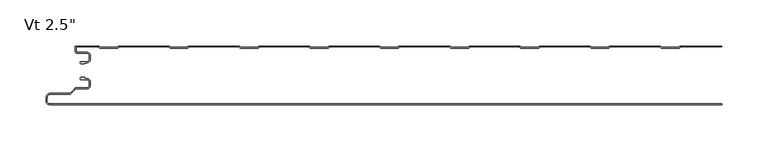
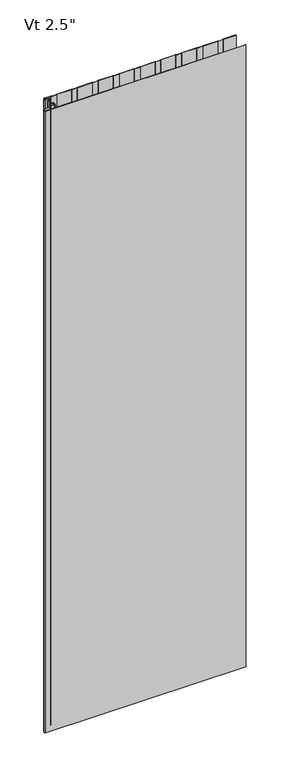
"""IFC4 building model written with IfcOpenShell, lengths in millimetres: plate geometry."""

from ifc_helpers import new_model, si_unit, point, frame, frame_2d, origin, origin_with_axes, place, context, project, spatial, polyline, circle_curve, trimmed, segment, composite_curve, outline, extrude, source, transform, mapped, element, save
from ifc_brep_helpers import plane_surface, cylinder_surface, revolved_surface, advanced_brep


def plate_4ac01d0b(model_context):
    return source(origin(), model_context, "Body", "SolidModel", [
        advanced_brep(
        [(-346.968691, -17.0015202, 2400.0), (-347.9686883, -18.0015234, 2400.0), (-346.968691, -19.0015147, 2400.0), (-342.9684874, -19.0015147, 2400.0), (-342.9684874, -18.0015202, 2400.0), (-340.2762776, -18.0015202, 2400.0), (-336.9762819, -14.7015245, 2400.0), (-336.9762819, -10.3015333, 2400.0), (-340.2762774, -7.0015378, 2400.0), (-350.6962563, -7.0015378, 2400.0), (-352.4662505, -5.2315436, 2400.0), (-352.4662505, -0.9999959, 2400.0), (-327.9659738, -0.9999959, 2400.0), (-326.5803312, -2.200235, 2400.0), (-307.2051649, -2.200235, 2400.0), (-305.819532, -1.0000043, 2400.0), (-251.7661166, -1.0000043, 2400.0), (-250.3804836, -2.200235, 2400.0), (-231.0053173, -2.200235, 2400.0), (-229.6196844, -1.0000043, 2400.0), (-175.566269, -1.0000043, 2400.0), (-174.180636, -2.200235, 2400.0), (-154.8054697, -2.200235, 2400.0), (-153.4198368, -1.0000043, 2400.0), (-99.3664214, -1.0000043, 2400.0), (-97.9807884, -2.200235, 2400.0), (-78.6056221, -2.200235, 2400.0), (-77.2199892, -1.0000043, 2400.0), (-23.1665738, -1.0000043, 2400.0), (-21.7809408, -2.200235, 2400.0), (-2.4057745, -2.200235, 2400.0), (-1.0201416, -1.0000043, 2400.0), (53.0332738, -1.0000043, 2400.0), (54.4189068, -2.200235, 2400.0), (73.7940731, -2.200235, 2400.0), (75.179706, -1.0000043, 2400.0), (129.2331214, -1.0000043, 2400.0), (130.6187544, -2.200235, 2400.0), (149.9939207, -2.200235, 2400.0), (151.3795536, -1.0000043, 2400.0), (205.432969, -1.0000043, 2400.0), (206.818602, -2.200235, 2400.0), (226.1937683, -2.200235, 2400.0), (227.5794012, -1.0000043, 2400.0), (281.6328166, -1.0000043, 2400.0), (283.0184496, -2.200235, 2400.0), (302.3936159, -2.200235, 2400.0), (303.7792488, -1.0000043, 2400.0), (348.9999998, -1.0000043, 2400.0), (348.9999998, -4.3e-06, 2400.0), (303.9284, -4.3e-06, 2400.0), (303.0117831, -0.3417928, 2400.0), (302.0207355, -1.200235, 2400.0), (283.39133, -1.200235, 2400.0), (282.4002824, -0.3417928, 2400.0), (281.4836655, -4.3e-06, 2400.0), (227.7285524, -4.3e-06, 2400.0), (226.8119355, -0.3417928, 2400.0), (225.8208879, -1.200235, 2400.0), (207.1914824, -1.200235, 2400.0), (206.2004348, -0.3417928, 2400.0), (205.2838179, -4.3e-06, 2400.0), (151.5287048, -4.3e-06, 2400.0), (150.6120879, -0.3417928, 2400.0), (149.6210403, -1.200235, 2400.0), (130.9916348, -1.200235, 2400.0), (130.0005872, -0.3417928, 2400.0), (129.0839703, -4.3e-06, 2400.0), (75.3288572, -4.3e-06, 2400.0), (74.4122403, -0.3417928, 2400.0), (73.4211927, -1.200235, 2400.0), (54.7917872, -1.200235, 2400.0), (53.8007396, -0.3417928, 2400.0), (52.8841227, -4.3e-06, 2400.0), (-0.8709904, -4.3e-06, 2400.0), (-1.7876073, -0.3417928, 2400.0), (-2.7786549, -1.200235, 2400.0), (-21.4080604, -1.200235, 2400.0), (-22.399108, -0.3417928, 2400.0), (-23.3157249, -4.3e-06, 2400.0), (-77.070838, -4.3e-06, 2400.0), (-77.9874549, -0.3417928, 2400.0), (-78.9785025, -1.200235, 2400.0), (-97.607908, -1.200235, 2400.0), (-98.5989556, -0.3417928, 2400.0), (-99.5155725, -4.3e-06, 2400.0), (-153.2706856, -4.3e-06, 2400.0), (-154.1873025, -0.3417928, 2400.0), (-155.1783501, -1.200235, 2400.0), (-173.8077556, -1.200235, 2400.0), (-174.7988032, -0.3417928, 2400.0), (-175.7154201, -4.3e-06, 2400.0), (-229.4705332, -4.3e-06, 2400.0), (-230.3871501, -0.3417928, 2400.0), (-231.3781977, -1.200235, 2400.0), (-250.0076032, -1.200235, 2400.0), (-250.9986508, -0.3417928, 2400.0), (-251.9152677, -4.3e-06, 2400.0), (-305.6703808, -4.3e-06, 2400.0), (-306.5869977, -0.3417928, 2400.0), (-307.5780453, -1.200235, 2400.0), (-326.2074508, -1.200235, 2400.0), (-327.1984984, -0.3417928, 2400.0), (-328.1152067, -4.3e-06, 2400.0), (-352.0662543, 4.1e-06, 2400.0), (-353.4662505, -1.3999921, 2400.0), (-353.4662505, -5.2315436, 2400.0), (-350.6962563, -8.0015378, 2400.0), (-340.2762774, -8.0015378, 2400.0), (-337.9762819, -10.3015333, 2400.0), (-337.9762819, -14.7015245, 2400.0), (-340.2762776, -17.0015202, 2400.0), (-346.968691, -17.0015202, 0.0), (-340.2762776, -17.0015202, 0.0), (-337.9762819, -14.7015245, 0.0), (-337.9762819, -10.3015333, 0.0), (-340.2762774, -8.0015378, 0.0), (-350.6962563, -8.0015378, 0.0), (-353.4662505, -5.2315436, 0.0), (-353.4662505, -1.3999921, 0.0), (-352.0662543, 4.1e-06, 0.0), (-328.1151153, 4.1e-06, 0.0), (-327.1984984, -0.3417928, 0.0), (-326.2074508, -1.200235, 0.0), (-307.5780453, -1.200235, 0.0), (-306.5869977, -0.3417928, 0.0), (-305.6703808, -4.3e-06, 0.0), (-251.9152677, -4.3e-06, 0.0), (-250.9986508, -0.3417928, 0.0), (-250.0076032, -1.200235, 0.0), (-231.3781977, -1.200235, 0.0), (-230.3871501, -0.3417928, 0.0), (-229.4705332, -4.3e-06, 0.0), (-175.7154201, -4.3e-06, 0.0), (-174.7988032, -0.3417928, 0.0), (-173.8077556, -1.200235, 0.0), (-155.1783501, -1.200235, 0.0), (-154.1873025, -0.3417928, 0.0), (-153.2706856, -4.3e-06, 0.0), (-99.5155725, -4.3e-06, 0.0), (-98.5989556, -0.3417928, 0.0), (-97.607908, -1.200235, 0.0), (-78.9785025, -1.200235, 0.0), (-77.9874549, -0.3417928, 0.0), (-77.070838, -4.3e-06, 0.0), (-23.3157249, -4.3e-06, 0.0), (-22.399108, -0.3417928, 0.0), (-21.4080604, -1.200235, 0.0), (-2.7786549, -1.200235, 0.0), (-1.7876073, -0.3417928, 0.0), (-0.8709904, -4.3e-06, 0.0), (52.8841227, -4.3e-06, 0.0), (53.8007396, -0.3417928, 0.0), (54.7917872, -1.200235, 0.0), (73.4211927, -1.200235, 0.0), (74.4122403, -0.3417928, 0.0), (75.3288572, -4.3e-06, 0.0), (129.0839703, -4.3e-06, 0.0), (130.0005872, -0.3417928, 0.0), (130.9916348, -1.200235, 0.0), (149.6210403, -1.200235, 0.0), (150.6120879, -0.3417928, 0.0), (151.5287048, -4.3e-06, 0.0), (205.2838179, -4.3e-06, 0.0), (206.2004348, -0.3417928, 0.0), (207.1914824, -1.200235, 0.0), (225.8208879, -1.200235, 0.0), (226.8119355, -0.3417928, 0.0), (227.7285524, -4.3e-06, 0.0), (281.4836655, -4.3e-06, 0.0), (282.4002824, -0.3417928, 0.0), (283.39133, -1.200235, 0.0), (302.0207355, -1.200235, 0.0), (303.0117831, -0.3417928, 0.0), (303.9284, -4.3e-06, 0.0), (348.9999998, -4.3e-06, 0.0), (348.9999998, -1.0000043, 0.0), (303.7792488, -1.0000043, 0.0), (302.3936159, -2.200235, 0.0), (283.0184496, -2.200235, 0.0), (281.6328166, -1.0000043, 0.0), (227.5794012, -1.0000043, 0.0), (226.1937683, -2.200235, 0.0), (206.818602, -2.200235, 0.0), (205.432969, -1.0000043, 0.0), (151.3795536, -1.0000043, 0.0), (149.9939207, -2.200235, 0.0), (130.6187544, -2.200235, 0.0), (129.2331214, -1.0000043, 0.0), (75.179706, -1.0000043, 0.0), (73.7940731, -2.200235, 0.0), (54.4189068, -2.200235, 0.0), (53.0332738, -1.0000043, 0.0), (-1.0201416, -1.0000043, 0.0), (-2.4057745, -2.200235, 0.0), (-21.7809408, -2.200235, 0.0), (-23.1665738, -1.0000043, 0.0), (-77.2199892, -1.0000043, 0.0), (-78.6056221, -2.200235, 0.0), (-97.9807884, -2.200235, 0.0), (-99.3664214, -1.0000043, 0.0), (-153.4198368, -1.0000043, 0.0), (-154.8054697, -2.200235, 0.0), (-174.180636, -2.200235, 0.0), (-175.566269, -1.0000043, 0.0), (-229.6196844, -1.0000043, 0.0), (-231.0053173, -2.200235, 0.0), (-250.3804836, -2.200235, 0.0), (-251.7661166, -1.0000043, 0.0), (-305.819532, -1.0000043, 0.0), (-307.2051649, -2.200235, 0.0), (-326.5803312, -2.200235, 0.0), (-327.9659738, -0.9999959, 0.0), (-352.4662505, -0.9999959, 0.0), (-352.4662505, -5.2315436, 0.0), (-350.6962563, -7.0015378, 0.0), (-340.2762774, -7.0015378, 0.0), (-336.9762819, -10.3015333, 0.0), (-336.9762819, -14.7015245, 0.0), (-340.2762776, -18.0015202, 0.0), (-342.9684874, -18.0015202, 0.0), (-342.9684874, -19.0015147, 0.0), (-346.968691, -19.0015147, 0.0), (-347.9686882, -18.0015235, 0.0)],
        [
            (0, 1, circle_curve(frame((-346.968691, -18.0015175, 2400.0), z_axis=(0.0, 0.0, 1.0), x_axis=(1.0, 0.0, 0.0)), 0.9999973)),
            (1, 2, circle_curve(frame((-346.968691, -18.0015175, 2400.0), z_axis=(0.0, 0.0, 1.0), x_axis=(1.0, 0.0, 0.0)), 0.9999972)),
            (2, 3),
            (3, 4),
            (4, 5),
            (5, 6, circle_curve(frame((-340.2762776, -14.7015245, 2400.0), z_axis=(0.0, 0.0, 1.0), x_axis=(1.0, 0.0, 0.0)), 3.2999957)),
            (6, 7),
            (7, 8, circle_curve(frame((-340.2762774, -10.3015333, 2400.0), z_axis=(0.0, 0.0, 1.0), x_axis=(1.0, 0.0, 0.0)), 3.2999955)),
            (8, 9),
            (9, 10, circle_curve(frame((-350.6962563, -5.2315436, 2400.0), z_axis=(0.0, 0.0, -1.0), x_axis=(1.0, 0.0, 0.0)), 1.7699942)),
            (10, 11),
            (11, 12),
            (12, 13),
            (13, 14),
            (14, 15),
            (15, 16),
            (16, 17),
            (17, 18),
            (18, 19),
            (19, 20),
            (20, 21),
            (21, 22),
            (22, 23),
            (23, 24),
            (24, 25),
            (25, 26),
            (26, 27),
            (27, 28),
            (28, 29),
            (29, 30),
            (30, 31),
            (31, 32),
            (32, 33),
            (33, 34),
            (34, 35),
            (35, 36),
            (36, 37),
            (37, 38),
            (38, 39),
            (39, 40),
            (40, 41),
            (41, 42),
            (42, 43),
            (43, 44),
            (44, 45),
            (45, 46),
            (46, 47),
            (47, 48),
            (48, 49),
            (49, 50),
            (50, 51, circle_curve(frame((303.9284, -1.4000015, 2400.0), z_axis=(0.0, 0.0, 1.0), x_axis=(1.0, 0.0, 0.0)), 1.3999972)),
            (51, 52),
            (52, 53),
            (53, 54),
            (54, 55, circle_curve(frame((281.4836655, -1.4000015, 2400.0), z_axis=(0.0, 0.0, 1.0), x_axis=(1.0, 0.0, 0.0)), 1.3999972)),
            (55, 56),
            (56, 57, circle_curve(frame((227.7285524, -1.4000015, 2400.0), z_axis=(0.0, 0.0, 1.0), x_axis=(1.0, 0.0, 0.0)), 1.3999972)),
            (57, 58),
            (58, 59),
            (59, 60),
            (60, 61, circle_curve(frame((205.2838179, -1.4000015, 2400.0), z_axis=(0.0, 0.0, 1.0), x_axis=(1.0, 0.0, 0.0)), 1.3999972)),
            (61, 62),
            (62, 63, circle_curve(frame((151.5287048, -1.4000015, 2400.0), z_axis=(0.0, 0.0, 1.0), x_axis=(1.0, 0.0, 0.0)), 1.3999972)),
            (63, 64),
            (64, 65),
            (65, 66),
            (66, 67, circle_curve(frame((129.0839703, -1.4000015, 2400.0), z_axis=(0.0, 0.0, 1.0), x_axis=(1.0, 0.0, 0.0)), 1.3999972)),
            (67, 68),
            (68, 69, circle_curve(frame((75.3288572, -1.4000015, 2400.0), z_axis=(0.0, 0.0, 1.0), x_axis=(1.0, 0.0, 0.0)), 1.3999972)),
            (69, 70),
            (70, 71),
            (71, 72),
            (72, 73, circle_curve(frame((52.8841227, -1.4000015, 2400.0), z_axis=(0.0, 0.0, 1.0), x_axis=(1.0, 0.0, 0.0)), 1.3999972)),
            (73, 74),
            (74, 75, circle_curve(frame((-0.8709904, -1.4000015, 2400.0), z_axis=(0.0, 0.0, 1.0), x_axis=(1.0, 0.0, 0.0)), 1.3999972)),
            (75, 76),
            (76, 77),
            (77, 78),
            (78, 79, circle_curve(frame((-23.3157249, -1.4000015, 2400.0), z_axis=(0.0, 0.0, 1.0), x_axis=(1.0, 0.0, 0.0)), 1.3999972)),
            (79, 80),
            (80, 81, circle_curve(frame((-77.070838, -1.4000015, 2400.0), z_axis=(0.0, 0.0, 1.0), x_axis=(1.0, 0.0, 0.0)), 1.3999972)),
            (81, 82),
            (82, 83),
            (83, 84),
            (84, 85, circle_curve(frame((-99.5155725, -1.4000015, 2400.0), z_axis=(0.0, 0.0, 1.0), x_axis=(1.0, 0.0, 0.0)), 1.3999972)),
            (85, 86),
            (86, 87, circle_curve(frame((-153.2706856, -1.4000015, 2400.0), z_axis=(0.0, 0.0, 1.0), x_axis=(1.0, 0.0, 0.0)), 1.3999972)),
            (87, 88),
            (88, 89),
            (89, 90),
            (90, 91, circle_curve(frame((-175.7154201, -1.4000015, 2400.0), z_axis=(0.0, 0.0, 1.0), x_axis=(1.0, 0.0, 0.0)), 1.3999972)),
            (91, 92),
            (92, 93, circle_curve(frame((-229.4705332, -1.4000015, 2400.0), z_axis=(0.0, 0.0, 1.0), x_axis=(1.0, 0.0, 0.0)), 1.3999972)),
            (93, 94),
            (94, 95),
            (95, 96),
            (96, 97, circle_curve(frame((-251.9152677, -1.4000015, 2400.0), z_axis=(0.0, 0.0, 1.0), x_axis=(1.0, 0.0, 0.0)), 1.3999972)),
            (97, 98),
            (98, 99, circle_curve(frame((-305.6703808, -1.4000015, 2400.0), z_axis=(0.0, 0.0, 1.0), x_axis=(1.0, 0.0, 0.0)), 1.3999972)),
            (99, 100),
            (100, 101),
            (101, 102),
            (102, 103, circle_curve(frame((-328.1151153, -1.4000015, 2400.0), z_axis=(0.0, 0.0, 1.0), x_axis=(1.0, 0.0, 0.0)), 1.3999972)),
            (103, 104),
            (104, 105, circle_curve(frame((-352.0662543, -1.3999921, 2400.0), z_axis=(0.0, 0.0, 1.0), x_axis=(1.0, 0.0, 0.0)), 1.3999962)),
            (105, 106),
            (106, 107, circle_curve(frame((-350.6962563, -5.2315436, 2400.0), z_axis=(0.0, 0.0, 1.0), x_axis=(1.0, 0.0, 0.0)), 2.7699942)),
            (107, 108),
            (108, 109, circle_curve(frame((-340.2762774, -10.3015333, 2400.0), z_axis=(0.0, 0.0, -1.0), x_axis=(1.0, 0.0, 0.0)), 2.2999955)),
            (109, 110),
            (110, 111, circle_curve(frame((-340.2762776, -14.7015245, 2400.0), z_axis=(0.0, 0.0, -1.0), x_axis=(1.0, 0.0, 0.0)), 2.2999957)),
            (111, 0),
            (112, 113),
            (113, 114, circle_curve(frame((-340.2762776, -14.7015245, 0.0), z_axis=(0.0, 0.0, 1.0), x_axis=(1.0, 0.0, 0.0)), 2.2999957)),
            (114, 115),
            (115, 116, circle_curve(frame((-340.2762774, -10.3015333, 0.0), z_axis=(0.0, 0.0, 1.0), x_axis=(1.0, 0.0, 0.0)), 2.2999955)),
            (116, 117),
            (117, 118, circle_curve(frame((-350.6962563, -5.2315436, 0.0), z_axis=(0.0, 0.0, -1.0), x_axis=(1.0, 0.0, 0.0)), 2.7699942)),
            (118, 119),
            (119, 120, circle_curve(frame((-352.0662543, -1.3999921, 0.0), z_axis=(0.0, 0.0, -1.0), x_axis=(1.0, 0.0, 0.0)), 1.3999962)),
            (120, 121),
            (121, 122, circle_curve(frame((-328.1151153, -1.4000015, 0.0), z_axis=(0.0, 0.0, -1.0), x_axis=(1.0, 0.0, 0.0)), 1.3999972)),
            (122, 123),
            (123, 124),
            (124, 125),
            (125, 126, circle_curve(frame((-305.6703808, -1.4000015, 0.0), z_axis=(0.0, 0.0, -1.0), x_axis=(1.0, 0.0, 0.0)), 1.3999972)),
            (126, 127),
            (127, 128, circle_curve(frame((-251.9152677, -1.4000015, 0.0), z_axis=(0.0, 0.0, -1.0), x_axis=(1.0, 0.0, 0.0)), 1.3999972)),
            (128, 129),
            (129, 130),
            (130, 131),
            (131, 132, circle_curve(frame((-229.4705332, -1.4000015, 0.0), z_axis=(0.0, 0.0, -1.0), x_axis=(1.0, 0.0, 0.0)), 1.3999972)),
            (132, 133),
            (133, 134, circle_curve(frame((-175.7154201, -1.4000015, 0.0), z_axis=(0.0, 0.0, -1.0), x_axis=(1.0, 0.0, 0.0)), 1.3999972)),
            (134, 135),
            (135, 136),
            (136, 137),
            (137, 138, circle_curve(frame((-153.2706856, -1.4000015, 0.0), z_axis=(0.0, 0.0, -1.0), x_axis=(1.0, 0.0, 0.0)), 1.3999972)),
            (138, 139),
            (139, 140, circle_curve(frame((-99.5155725, -1.4000015, 0.0), z_axis=(0.0, 0.0, -1.0), x_axis=(1.0, 0.0, 0.0)), 1.3999972)),
            (140, 141),
            (141, 142),
            (142, 143),
            (143, 144, circle_curve(frame((-77.070838, -1.4000015, 0.0), z_axis=(0.0, 0.0, -1.0), x_axis=(1.0, 0.0, 0.0)), 1.3999972)),
            (144, 145),
            (145, 146, circle_curve(frame((-23.3157249, -1.4000015, 0.0), z_axis=(0.0, 0.0, -1.0), x_axis=(1.0, 0.0, 0.0)), 1.3999972)),
            (146, 147),
            (147, 148),
            (148, 149),
            (149, 150, circle_curve(frame((-0.8709904, -1.4000015, 0.0), z_axis=(0.0, 0.0, -1.0), x_axis=(1.0, 0.0, 0.0)), 1.3999972)),
            (150, 151),
            (151, 152, circle_curve(frame((52.8841227, -1.4000015, 0.0), z_axis=(0.0, 0.0, -1.0), x_axis=(1.0, 0.0, 0.0)), 1.3999972)),
            (152, 153),
            (153, 154),
            (154, 155),
            (155, 156, circle_curve(frame((75.3288572, -1.4000015, 0.0), z_axis=(0.0, 0.0, -1.0), x_axis=(1.0, 0.0, 0.0)), 1.3999972)),
            (156, 157),
            (157, 158, circle_curve(frame((129.0839703, -1.4000015, 0.0), z_axis=(0.0, 0.0, -1.0), x_axis=(1.0, 0.0, 0.0)), 1.3999972)),
            (158, 159),
            (159, 160),
            (160, 161),
            (161, 162, circle_curve(frame((151.5287048, -1.4000015, 0.0), z_axis=(0.0, 0.0, -1.0), x_axis=(1.0, 0.0, 0.0)), 1.3999972)),
            (162, 163),
            (163, 164, circle_curve(frame((205.2838179, -1.4000015, 0.0), z_axis=(0.0, 0.0, -1.0), x_axis=(1.0, 0.0, 0.0)), 1.3999972)),
            (164, 165),
            (165, 166),
            (166, 167),
            (167, 168, circle_curve(frame((227.7285524, -1.4000015, 0.0), z_axis=(0.0, 0.0, -1.0), x_axis=(1.0, 0.0, 0.0)), 1.3999972)),
            (168, 169),
            (169, 170, circle_curve(frame((281.4836655, -1.4000015, 0.0), z_axis=(0.0, 0.0, -1.0), x_axis=(1.0, 0.0, 0.0)), 1.3999972)),
            (170, 171),
            (171, 172),
            (172, 173),
            (173, 174, circle_curve(frame((303.9284, -1.4000015, 0.0), z_axis=(0.0, 0.0, -1.0), x_axis=(1.0, 0.0, 0.0)), 1.3999972)),
            (174, 175),
            (175, 176),
            (176, 177),
            (177, 178),
            (178, 179),
            (179, 180),
            (180, 181),
            (181, 182),
            (182, 183),
            (183, 184),
            (184, 185),
            (185, 186),
            (186, 187),
            (187, 188),
            (188, 189),
            (189, 190),
            (190, 191),
            (191, 192),
            (192, 193),
            (193, 194),
            (194, 195),
            (195, 196),
            (196, 197),
            (197, 198),
            (198, 199),
            (199, 200),
            (200, 201),
            (201, 202),
            (202, 203),
            (203, 204),
            (204, 205),
            (205, 206),
            (206, 207),
            (207, 208),
            (208, 209),
            (209, 210),
            (210, 211),
            (211, 212),
            (212, 213),
            (213, 214),
            (214, 215, circle_curve(frame((-350.6962563, -5.2315436, 0.0), z_axis=(0.0, 0.0, 1.0), x_axis=(1.0, 0.0, 0.0)), 1.7699942)),
            (215, 216),
            (216, 217, circle_curve(frame((-340.2762774, -10.3015333, 0.0), z_axis=(0.0, 0.0, -1.0), x_axis=(1.0, 0.0, 0.0)), 3.2999955)),
            (217, 218),
            (218, 219, circle_curve(frame((-340.2762776, -14.7015245, 0.0), z_axis=(0.0, 0.0, -1.0), x_axis=(1.0, 0.0, 0.0)), 3.2999957)),
            (219, 220),
            (220, 221),
            (221, 222),
            (222, 223, circle_curve(frame((-346.968691, -18.0015175, 0.0), z_axis=(0.0, 0.0, -1.0), x_axis=(1.0, 0.0, 0.0)), 0.9999972)),
            (223, 112, circle_curve(frame((-346.968691, -18.0015175, 0.0), z_axis=(0.0, 0.0, -1.0), x_axis=(1.0, 0.0, 0.0)), 0.9999973)),
            (48, 176),
            (175, 49),
            (111, 113),
            (112, 0),
            (110, 114),
            (109, 115),
            (108, 116),
            (107, 117),
            (106, 118),
            (105, 119),
            (104, 120),
            (103, 121),
            (102, 122),
            (101, 123),
            (100, 124),
            (99, 125),
            (98, 126),
            (97, 127),
            (96, 128),
            (95, 129),
            (94, 130),
            (93, 131),
            (92, 132),
            (91, 133),
            (90, 134),
            (89, 135),
            (88, 136),
            (87, 137),
            (86, 138),
            (85, 139),
            (84, 140),
            (83, 141),
            (82, 142),
            (81, 143),
            (80, 144),
            (79, 145),
            (78, 146),
            (77, 147),
            (76, 148),
            (75, 149),
            (74, 150),
            (73, 151),
            (72, 152),
            (71, 153),
            (70, 154),
            (69, 155),
            (68, 156),
            (67, 157),
            (66, 158),
            (65, 159),
            (64, 160),
            (63, 161),
            (62, 162),
            (38, 186),
            (185, 39),
            (37, 187),
            (36, 188),
            (35, 189),
            (34, 190),
            (33, 191),
            (32, 192),
            (31, 193),
            (30, 194),
            (29, 195),
            (28, 196),
            (27, 197),
            (26, 198),
            (25, 199),
            (24, 200),
            (23, 201),
            (22, 202),
            (21, 203),
            (20, 204),
            (19, 205),
            (18, 206),
            (17, 207),
            (16, 208),
            (15, 209),
            (14, 210),
            (13, 211),
            (12, 212),
            (11, 213),
            (10, 214),
            (9, 215),
            (8, 216),
            (7, 217),
            (6, 218),
            (5, 219),
            (4, 220),
            (3, 221),
            (2, 222),
            (1, 223),
            (55, 169),
            (168, 56),
            (54, 170),
            (53, 171),
            (52, 172),
            (51, 173),
            (50, 174),
            (43, 181),
            (180, 44),
            (42, 182),
            (41, 183),
            (40, 184),
            (61, 163),
            (60, 164),
            (59, 165),
            (58, 166),
            (57, 167),
            (47, 177),
            (46, 178),
            (45, 179),
        ],
        [
            plane_surface(frame((32.0000002, -4.3e-06, 2400.0), z_axis=(0.0, 0.0, 1.0), x_axis=(0.0, 1.0, 0.0))),
            plane_surface(frame((32.0000002, -4.3e-06, 0.0), z_axis=(0.0, 0.0, -1.0), x_axis=(0.0, 1.0, 0.0))),
            plane_surface(frame((348.9999998, -73.5000043, 2400.0), z_axis=(1.0, 0.0, 0.0), x_axis=(0.0, 0.0, -1.0))),
            plane_surface(frame((-346.968691, -17.0015202, 2400.0), z_axis=(0.0, 1.0, 0.0), x_axis=(0.0, 0.0, -1.0))),
            revolved_surface(polyline([(-337.9762819, -14.7015245, 0.0), (-337.9762819, -14.7015245, 2400.0)]), (-340.2762776, -14.7015245, 2400.0), (0.0, 0.0, -1.0)),
            plane_surface(frame((-337.9762819, -14.7015245, 2400.0), z_axis=(-1.0, 0.0, 0.0), x_axis=(0.0, 0.0, -1.0))),
            revolved_surface(polyline([(-337.9762819, -10.3015333, 0.0), (-337.9762819, -10.3015333, 2400.0)]), (-340.2762774, -10.3015333, 2400.0), (0.0, 0.0, -1.0)),
            plane_surface(frame((-340.2762774, -8.0015378, 2400.0), z_axis=(0.0, -1.0, 0.0), x_axis=(0.0, 0.0, -1.0))),
            cylinder_surface(frame((-350.6962563, -5.2315436, 2400.0), z_axis=(0.0, 0.0, 1.0), x_axis=(1.0, 0.0, 0.0)), 2.7699942),
            plane_surface(frame((-353.4662505, -5.2315436, 2400.0), z_axis=(-1.0, 0.0, 0.0), x_axis=(0.0, 0.0, -1.0))),
            cylinder_surface(frame((-352.0662543, -1.3999921, 2400.0), z_axis=(0.0, 0.0, 1.0), x_axis=(1.0, 0.0, 0.0)), 1.3999962),
            plane_surface(frame((-352.0662543, 4.1e-06, 2400.0), z_axis=(0.0, 1.0, 0.0), x_axis=(0.0, 0.0, -1.0))),
            cylinder_surface(frame((-328.1151153, -1.4000015, 2400.0), z_axis=(0.0, 0.0, 1.0), x_axis=(1.0, 0.0, 0.0)), 1.3999972),
            plane_surface(frame((-327.1984984, -0.3417928, 2400.0), z_axis=(0.6547276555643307, 0.7558648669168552, 0.0), x_axis=(0.0, 0.0, -1.0))),
            plane_surface(frame((-316.8927481, -1.200235, 2400.0), z_axis=(0.0, 1.0, 0.0), x_axis=(0.0, 0.0, -1.0))),
            plane_surface(frame((-307.5780453, -1.200235, 2400.0), z_axis=(-0.6547276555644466, 0.7558648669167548, 0.0), x_axis=(0.0, 0.0, -1.0))),
            cylinder_surface(frame((-305.6703808, -1.4000015, 2400.0), z_axis=(0.0, 0.0, 1.0), x_axis=(1.0, 0.0, 0.0)), 1.3999972),
            plane_surface(frame((-305.6703808, -4.3e-06, 2400.0), z_axis=(0.0, 1.0, 0.0), x_axis=(0.0, 0.0, -1.0))),
            cylinder_surface(frame((-251.9152677, -1.4000015, 2400.0), z_axis=(0.0, 0.0, 1.0), x_axis=(1.0, 0.0, 0.0)), 1.3999972),
            plane_surface(frame((-250.9986508, -0.3417928, 2400.0), z_axis=(0.6547276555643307, 0.7558648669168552, 0.0), x_axis=(0.0, 0.0, -1.0))),
            plane_surface(frame((-240.6929005, -1.200235, 2400.0), z_axis=(0.0, 1.0, 0.0), x_axis=(0.0, 0.0, -1.0))),
            plane_surface(frame((-231.3781977, -1.200235, 2400.0), z_axis=(-0.6547276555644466, 0.7558648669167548, 0.0), x_axis=(0.0, 0.0, -1.0))),
            cylinder_surface(frame((-229.4705332, -1.4000015, 2400.0), z_axis=(0.0, 0.0, 1.0), x_axis=(1.0, 0.0, 0.0)), 1.3999972),
            plane_surface(frame((-229.4705332, -4.3e-06, 2400.0), z_axis=(0.0, 1.0, 0.0), x_axis=(0.0, 0.0, -1.0))),
            cylinder_surface(frame((-175.7154201, -1.4000015, 2400.0), z_axis=(0.0, 0.0, 1.0), x_axis=(1.0, 0.0, 0.0)), 1.3999972),
            plane_surface(frame((-174.7988032, -0.3417928, 2400.0), z_axis=(0.6547276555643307, 0.7558648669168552, 0.0), x_axis=(0.0, 0.0, -1.0))),
            plane_surface(frame((-164.4930529, -1.200235, 2400.0), z_axis=(0.0, 1.0, 0.0), x_axis=(0.0, 0.0, -1.0))),
            plane_surface(frame((-155.1783501, -1.200235, 2400.0), z_axis=(-0.6547276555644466, 0.7558648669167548, 0.0), x_axis=(0.0, 0.0, -1.0))),
            cylinder_surface(frame((-153.2706856, -1.4000015, 2400.0), z_axis=(0.0, 0.0, 1.0), x_axis=(1.0, 0.0, 0.0)), 1.3999972),
            plane_surface(frame((-153.2706856, -4.3e-06, 2400.0), z_axis=(0.0, 1.0, 0.0), x_axis=(0.0, 0.0, -1.0))),
            cylinder_surface(frame((-99.5155725, -1.4000015, 2400.0), z_axis=(0.0, 0.0, 1.0), x_axis=(1.0, 0.0, 0.0)), 1.3999972),
            plane_surface(frame((-98.5989556, -0.3417928, 2400.0), z_axis=(0.6547276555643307, 0.7558648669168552, 0.0), x_axis=(0.0, 0.0, -1.0))),
            plane_surface(frame((-88.2932053, -1.200235, 2400.0), z_axis=(0.0, 1.0, 0.0), x_axis=(0.0, 0.0, -1.0))),
            plane_surface(frame((-78.9785025, -1.200235, 2400.0), z_axis=(-0.6547276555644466, 0.7558648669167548, 0.0), x_axis=(0.0, 0.0, -1.0))),
            cylinder_surface(frame((-77.070838, -1.4000015, 2400.0), z_axis=(0.0, 0.0, 1.0), x_axis=(1.0, 0.0, 0.0)), 1.3999972),
            plane_surface(frame((-77.070838, -4.3e-06, 2400.0), z_axis=(0.0, 1.0, 0.0), x_axis=(0.0, 0.0, -1.0))),
            cylinder_surface(frame((-23.3157249, -1.4000015, 2400.0), z_axis=(0.0, 0.0, 1.0), x_axis=(1.0, 0.0, 0.0)), 1.3999972),
            plane_surface(frame((-22.399108, -0.3417928, 2400.0), z_axis=(0.6547276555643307, 0.7558648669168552, 0.0), x_axis=(0.0, 0.0, -1.0))),
            plane_surface(frame((-12.0933577, -1.200235, 2400.0), z_axis=(0.0, 1.0, 0.0), x_axis=(0.0, 0.0, -1.0))),
            plane_surface(frame((-2.7786549, -1.200235, 2400.0), z_axis=(-0.6547276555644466, 0.7558648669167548, 0.0), x_axis=(0.0, 0.0, -1.0))),
            cylinder_surface(frame((-0.8709904, -1.4000015, 2400.0), z_axis=(0.0, 0.0, 1.0), x_axis=(1.0, 0.0, 0.0)), 1.3999972),
            plane_surface(frame((-0.8709904, -4.3e-06, 2400.0), z_axis=(0.0, 1.0, 0.0), x_axis=(0.0, 0.0, -1.0))),
            cylinder_surface(frame((52.8841227, -1.4000015, 2400.0), z_axis=(0.0, 0.0, 1.0), x_axis=(1.0, 0.0, 0.0)), 1.3999972),
            plane_surface(frame((53.8007396, -0.3417928, 2400.0), z_axis=(0.6547276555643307, 0.7558648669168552, 0.0), x_axis=(0.0, 0.0, -1.0))),
            plane_surface(frame((64.1064899, -1.200235, 2400.0), z_axis=(0.0, 1.0, 0.0), x_axis=(0.0, 0.0, -1.0))),
            plane_surface(frame((73.4211927, -1.200235, 2400.0), z_axis=(-0.6547276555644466, 0.7558648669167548, 0.0), x_axis=(0.0, 0.0, -1.0))),
            cylinder_surface(frame((75.3288572, -1.4000015, 2400.0), z_axis=(0.0, 0.0, 1.0), x_axis=(1.0, 0.0, 0.0)), 1.3999972),
            plane_surface(frame((75.3288572, -4.3e-06, 2400.0), z_axis=(0.0, 1.0, 0.0), x_axis=(0.0, 0.0, -1.0))),
            cylinder_surface(frame((129.0839703, -1.4000015, 2400.0), z_axis=(0.0, 0.0, 1.0), x_axis=(1.0, 0.0, 0.0)), 1.3999972),
            plane_surface(frame((130.0005872, -0.3417928, 2400.0), z_axis=(0.6547276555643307, 0.7558648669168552, 0.0), x_axis=(0.0, 0.0, -1.0))),
            plane_surface(frame((140.3063375, -1.200235, 2400.0), z_axis=(0.0, 1.0, 0.0), x_axis=(0.0, 0.0, -1.0))),
            plane_surface(frame((149.6210403, -1.200235, 2400.0), z_axis=(-0.6547276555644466, 0.7558648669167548, 0.0), x_axis=(0.0, 0.0, -1.0))),
            cylinder_surface(frame((151.5287048, -1.4000015, 2400.0), z_axis=(0.0, 0.0, 1.0), x_axis=(1.0, 0.0, 0.0)), 1.3999972),
            plane_surface(frame((151.3795536, -1.0000043, 2400.0), z_axis=(0.6547276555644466, -0.7558648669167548, 0.0), x_axis=(0.0, 0.0, -1.0))),
            plane_surface(frame((149.9939207, -2.200235, 2400.0), z_axis=(0.0, -1.0, 0.0), x_axis=(0.0, 0.0, -1.0))),
            plane_surface(frame((130.6187544, -2.200235, 2400.0), z_axis=(-0.6547276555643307, -0.7558648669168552, 0.0), x_axis=(0.0, 0.0, -1.0))),
            plane_surface(frame((129.2331214, -1.0000043, 2400.0), z_axis=(0.0, -1.0, 0.0), x_axis=(0.0, 0.0, -1.0))),
            plane_surface(frame((75.179706, -1.0000043, 2400.0), z_axis=(0.6547276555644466, -0.7558648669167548, 0.0), x_axis=(0.0, 0.0, -1.0))),
            plane_surface(frame((73.7940731, -2.200235, 2400.0), z_axis=(0.0, -1.0, 0.0), x_axis=(0.0, 0.0, -1.0))),
            plane_surface(frame((54.4189068, -2.200235, 2400.0), z_axis=(-0.6547276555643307, -0.7558648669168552, 0.0), x_axis=(0.0, 0.0, -1.0))),
            plane_surface(frame((53.0332738, -1.0000043, 2400.0), z_axis=(0.0, -1.0, 0.0), x_axis=(0.0, 0.0, -1.0))),
            plane_surface(frame((-1.0201416, -1.0000043, 2400.0), z_axis=(0.6547276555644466, -0.7558648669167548, 0.0), x_axis=(0.0, 0.0, -1.0))),
            plane_surface(frame((-2.4057745, -2.200235, 2400.0), z_axis=(0.0, -1.0, 0.0), x_axis=(0.0, 0.0, -1.0))),
            plane_surface(frame((-21.7809408, -2.200235, 2400.0), z_axis=(-0.6547276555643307, -0.7558648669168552, 0.0), x_axis=(0.0, 0.0, -1.0))),
            plane_surface(frame((-23.1665738, -1.0000043, 2400.0), z_axis=(0.0, -1.0, 0.0), x_axis=(0.0, 0.0, -1.0))),
            plane_surface(frame((-77.2199892, -1.0000043, 2400.0), z_axis=(0.6547276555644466, -0.7558648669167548, 0.0), x_axis=(0.0, 0.0, -1.0))),
            plane_surface(frame((-78.6056221, -2.200235, 2400.0), z_axis=(0.0, -1.0, 0.0), x_axis=(0.0, 0.0, -1.0))),
            plane_surface(frame((-97.9807884, -2.200235, 2400.0), z_axis=(-0.6547276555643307, -0.7558648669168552, 0.0), x_axis=(0.0, 0.0, -1.0))),
            plane_surface(frame((-99.3664214, -1.0000043, 2400.0), z_axis=(0.0, -1.0, 0.0), x_axis=(0.0, 0.0, -1.0))),
            plane_surface(frame((-153.4198368, -1.0000043, 2400.0), z_axis=(0.6547276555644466, -0.7558648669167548, 0.0), x_axis=(0.0, 0.0, -1.0))),
            plane_surface(frame((-154.8054697, -2.200235, 2400.0), z_axis=(0.0, -1.0, 0.0), x_axis=(0.0, 0.0, -1.0))),
            plane_surface(frame((-174.180636, -2.200235, 2400.0), z_axis=(-0.6547276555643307, -0.7558648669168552, 0.0), x_axis=(0.0, 0.0, -1.0))),
            plane_surface(frame((-175.566269, -1.0000043, 2400.0), z_axis=(0.0, -1.0, 0.0), x_axis=(0.0, 0.0, -1.0))),
            plane_surface(frame((-229.6196844, -1.0000043, 2400.0), z_axis=(0.6547276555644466, -0.7558648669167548, 0.0), x_axis=(0.0, 0.0, -1.0))),
            plane_surface(frame((-231.0053173, -2.200235, 2400.0), z_axis=(0.0, -1.0, 0.0), x_axis=(0.0, 0.0, -1.0))),
            plane_surface(frame((-250.3804836, -2.200235, 2400.0), z_axis=(-0.6547276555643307, -0.7558648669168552, 0.0), x_axis=(0.0, 0.0, -1.0))),
            plane_surface(frame((-251.7661166, -1.0000043, 2400.0), z_axis=(0.0, -1.0, 0.0), x_axis=(0.0, 0.0, -1.0))),
            plane_surface(frame((-305.819532, -1.0000043, 2400.0), z_axis=(0.6547276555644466, -0.7558648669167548, 0.0), x_axis=(0.0, 0.0, -1.0))),
            plane_surface(frame((-307.2051649, -2.200235, 2400.0), z_axis=(0.0, -1.0, 0.0), x_axis=(0.0, 0.0, -1.0))),
            plane_surface(frame((-326.5803312, -2.200235, 2400.0), z_axis=(-0.6547276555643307, -0.7558648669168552, 0.0), x_axis=(0.0, 0.0, -1.0))),
            plane_surface(frame((-327.9659738, -0.9999959, 2400.0), z_axis=(0.0, -1.0, 0.0), x_axis=(0.0, 0.0, -1.0))),
            plane_surface(frame((-352.4662505, -0.9999959, 2400.0), z_axis=(1.0, 0.0, 0.0), x_axis=(0.0, 0.0, -1.0))),
            revolved_surface(polyline([(-348.92626210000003, -5.2315436, 0.0), (-348.92626210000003, -5.2315436, 2400.0)]), (-350.6962563, -5.2315436, 2400.0), (0.0, 0.0, -1.0)),
            plane_surface(frame((-350.6962563, -7.0015378, 2400.0), z_axis=(0.0, 1.0, 0.0), x_axis=(0.0, 0.0, -1.0))),
            cylinder_surface(frame((-340.2762774, -10.3015333, 2400.0), z_axis=(0.0, 0.0, 1.0), x_axis=(1.0, 0.0, 0.0)), 3.2999955),
            plane_surface(frame((-336.9762819, -10.3015333, 2400.0), z_axis=(1.0, 0.0, 0.0), x_axis=(0.0, 0.0, -1.0))),
            cylinder_surface(frame((-340.2762776, -14.7015245, 2400.0), z_axis=(0.0, 0.0, 1.0), x_axis=(1.0, 0.0, 0.0)), 3.2999957),
            plane_surface(frame((-340.2762776, -18.0015202, 2400.0), z_axis=(0.0, -1.0, 0.0), x_axis=(0.0, 0.0, -1.0))),
            plane_surface(frame((-342.9684874, -18.0015202, 2400.0), z_axis=(1.0, 0.0, 0.0), x_axis=(0.0, 0.0, -1.0))),
            plane_surface(frame((-342.9684874, -19.0015147, 2400.0), z_axis=(0.0, -1.0, 0.0), x_axis=(0.0, 0.0, -1.0))),
            cylinder_surface(frame((-346.968691, -18.0015175, 2400.0), z_axis=(0.0, 0.0, 1.0), x_axis=(1.0, 0.0, 0.0)), 0.9999972),
            cylinder_surface(frame((-346.968691, -18.0015175, 2400.0), z_axis=(0.0, 0.0, 1.0), x_axis=(1.0, 0.0, 0.0)), 0.9999973),
            plane_surface(frame((227.7285524, -4.3e-06, 2400.0), z_axis=(0.0, 1.0, 0.0), x_axis=(0.0, 0.0, -1.0))),
            cylinder_surface(frame((281.4836655, -1.4000015, 2400.0), z_axis=(0.0, 0.0, 1.0), x_axis=(1.0, 0.0, 0.0)), 1.3999972),
            plane_surface(frame((282.4002824, -0.3417928, 2400.0), z_axis=(0.6547276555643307, 0.7558648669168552, 0.0), x_axis=(0.0, 0.0, -1.0))),
            plane_surface(frame((292.7060327, -1.200235, 2400.0), z_axis=(0.0, 1.0, 0.0), x_axis=(0.0, 0.0, -1.0))),
            plane_surface(frame((302.0207355, -1.200235, 2400.0), z_axis=(-0.6547276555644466, 0.7558648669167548, 0.0), x_axis=(0.0, 0.0, -1.0))),
            cylinder_surface(frame((303.9284, -1.4000015, 2400.0), z_axis=(0.0, 0.0, 1.0), x_axis=(1.0, 0.0, 0.0)), 1.3999972),
            plane_surface(frame((303.9284, -4.3e-06, 2400.0), z_axis=(0.0, 1.0, 0.0), x_axis=(0.0, 0.0, -1.0))),
            plane_surface(frame((281.6328166, -1.0000043, 2400.0), z_axis=(0.0, -1.0, 0.0), x_axis=(0.0, 0.0, -1.0))),
            plane_surface(frame((227.5794012, -1.0000043, 2400.0), z_axis=(0.6547276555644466, -0.7558648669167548, 0.0), x_axis=(0.0, 0.0, -1.0))),
            plane_surface(frame((226.1937683, -2.200235, 2400.0), z_axis=(0.0, -1.0, 0.0), x_axis=(0.0, 0.0, -1.0))),
            plane_surface(frame((206.818602, -2.200235, 2400.0), z_axis=(-0.6547276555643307, -0.7558648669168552, 0.0), x_axis=(0.0, 0.0, -1.0))),
            plane_surface(frame((205.432969, -1.0000043, 2400.0), z_axis=(0.0, -1.0, 0.0), x_axis=(0.0, 0.0, -1.0))),
            plane_surface(frame((151.5287048, -4.3e-06, 2400.0), z_axis=(0.0, 1.0, 0.0), x_axis=(0.0, 0.0, -1.0))),
            cylinder_surface(frame((205.2838179, -1.4000015, 2400.0), z_axis=(0.0, 0.0, 1.0), x_axis=(1.0, 0.0, 0.0)), 1.3999972),
            plane_surface(frame((206.2004348, -0.3417928, 2400.0), z_axis=(0.6547276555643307, 0.7558648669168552, 0.0), x_axis=(0.0, 0.0, -1.0))),
            plane_surface(frame((216.5061851, -1.200235, 2400.0), z_axis=(0.0, 1.0, 0.0), x_axis=(0.0, 0.0, -1.0))),
            plane_surface(frame((225.8208879, -1.200235, 2400.0), z_axis=(-0.6547276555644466, 0.7558648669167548, 0.0), x_axis=(0.0, 0.0, -1.0))),
            cylinder_surface(frame((227.7285524, -1.4000015, 2400.0), z_axis=(0.0, 0.0, 1.0), x_axis=(1.0, 0.0, 0.0)), 1.3999972),
            plane_surface(frame((357.8326642, -1.0000043, 2400.0), z_axis=(0.0, -1.0, 0.0), x_axis=(0.0, 0.0, -1.0))),
            plane_surface(frame((303.7792488, -1.0000043, 2400.0), z_axis=(0.6547276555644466, -0.7558648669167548, 0.0), x_axis=(0.0, 0.0, -1.0))),
            plane_surface(frame((302.3936159, -2.200235, 2400.0), z_axis=(0.0, -1.0, 0.0), x_axis=(0.0, 0.0, -1.0))),
            plane_surface(frame((283.0184496, -2.200235, 2400.0), z_axis=(-0.6547276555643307, -0.7558648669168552, 0.0), x_axis=(0.0, 0.0, -1.0))),
        ],
        [
            (0, [[1, 2, 3, 4, 5, 6, 7, 8, 9, 10, 11, 12, 13, 14, 15, 16, 17, 18, 19, 20, 21, 22, 23, 24, 25, 26, 27, 28, 29, 30, 31, 32, 33, 34, 35, 36, 37, 38, 39, 40, 41, 42, 43, 44, 45, 46, 47, 48, 49, 50, 51, 52, 53, 54, 55, 56, 57, 58, 59, 60, 61, 62, 63, 64, 65, 66, 67, 68, 69, 70, 71, 72, 73, 74, 75, 76, 77, 78, 79, 80, 81, 82, 83, 84, 85, 86, 87, 88, 89, 90, 91, 92, 93, 94, 95, 96, 97, 98, 99, 100, 101, 102, 103, 104, 105, 106, 107, 108, 109, 110, 111, 112]]),
            (1, [[113, 114, 115, 116, 117, 118, 119, 120, 121, 122, 123, 124, 125, 126, 127, 128, 129, 130, 131, 132, 133, 134, 135, 136, 137, 138, 139, 140, 141, 142, 143, 144, 145, 146, 147, 148, 149, 150, 151, 152, 153, 154, 155, 156, 157, 158, 159, 160, 161, 162, 163, 164, 165, 166, 167, 168, 169, 170, 171, 172, 173, 174, 175, 176, 177, 178, 179, 180, 181, 182, 183, 184, 185, 186, 187, 188, 189, 190, 191, 192, 193, 194, 195, 196, 197, 198, 199, 200, 201, 202, 203, 204, 205, 206, 207, 208, 209, 210, 211, 212, 213, 214, 215, 216, 217, 218, 219, 220, 221, 222, 223, 224]]),
            (2, [[225, -176, 226, -49]]),
            (3, [[227, -113, 228, -112]]),
            (4, [[229, -114, -227, -111]]),
            (5, [[230, -115, -229, -110]]),
            (6, [[231, -116, -230, -109]]),
            (7, [[232, -117, -231, -108]]),
            (8, [[233, -118, -232, -107]]),
            (9, [[234, -119, -233, -106]]),
            (10, [[235, -120, -234, -105]]),
            (11, [[236, -121, -235, -104]]),
            (12, [[237, -122, -236, -103]]),
            (13, [[238, -123, -237, -102]]),
            (14, [[239, -124, -238, -101]]),
            (15, [[240, -125, -239, -100]]),
            (16, [[241, -126, -240, -99]]),
            (17, [[242, -127, -241, -98]]),
            (18, [[243, -128, -242, -97]]),
            (19, [[244, -129, -243, -96]]),
            (20, [[245, -130, -244, -95]]),
            (21, [[246, -131, -245, -94]]),
            (22, [[247, -132, -246, -93]]),
            (23, [[248, -133, -247, -92]]),
            (24, [[249, -134, -248, -91]]),
            (25, [[250, -135, -249, -90]]),
            (26, [[251, -136, -250, -89]]),
            (27, [[252, -137, -251, -88]]),
            (28, [[253, -138, -252, -87]]),
            (29, [[254, -139, -253, -86]]),
            (30, [[255, -140, -254, -85]]),
            (31, [[256, -141, -255, -84]]),
            (32, [[257, -142, -256, -83]]),
            (33, [[258, -143, -257, -82]]),
            (34, [[259, -144, -258, -81]]),
            (35, [[260, -145, -259, -80]]),
            (36, [[261, -146, -260, -79]]),
            (37, [[262, -147, -261, -78]]),
            (38, [[263, -148, -262, -77]]),
            (39, [[264, -149, -263, -76]]),
            (40, [[265, -150, -264, -75]]),
            (41, [[266, -151, -265, -74]]),
            (42, [[267, -152, -266, -73]]),
            (43, [[268, -153, -267, -72]]),
            (44, [[269, -154, -268, -71]]),
            (45, [[270, -155, -269, -70]]),
            (46, [[271, -156, -270, -69]]),
            (47, [[272, -157, -271, -68]]),
            (48, [[273, -158, -272, -67]]),
            (49, [[274, -159, -273, -66]]),
            (50, [[275, -160, -274, -65]]),
            (51, [[276, -161, -275, -64]]),
            (52, [[277, -162, -276, -63]]),
            (53, [[278, -186, 279, -39]]),
            (54, [[280, -187, -278, -38]]),
            (55, [[281, -188, -280, -37]]),
            (56, [[282, -189, -281, -36]]),
            (57, [[283, -190, -282, -35]]),
            (58, [[284, -191, -283, -34]]),
            (59, [[285, -192, -284, -33]]),
            (60, [[286, -193, -285, -32]]),
            (61, [[287, -194, -286, -31]]),
            (62, [[288, -195, -287, -30]]),
            (63, [[289, -196, -288, -29]]),
            (64, [[290, -197, -289, -28]]),
            (65, [[291, -198, -290, -27]]),
            (66, [[292, -199, -291, -26]]),
            (67, [[293, -200, -292, -25]]),
            (68, [[294, -201, -293, -24]]),
            (69, [[295, -202, -294, -23]]),
            (70, [[296, -203, -295, -22]]),
            (71, [[297, -204, -296, -21]]),
            (72, [[298, -205, -297, -20]]),
            (73, [[299, -206, -298, -19]]),
            (74, [[300, -207, -299, -18]]),
            (75, [[301, -208, -300, -17]]),
            (76, [[302, -209, -301, -16]]),
            (77, [[303, -210, -302, -15]]),
            (78, [[304, -211, -303, -14]]),
            (79, [[305, -212, -304, -13]]),
            (80, [[306, -213, -305, -12]]),
            (81, [[307, -214, -306, -11]]),
            (82, [[308, -215, -307, -10]]),
            (83, [[309, -216, -308, -9]]),
            (84, [[310, -217, -309, -8]]),
            (85, [[311, -218, -310, -7]]),
            (86, [[312, -219, -311, -6]]),
            (87, [[313, -220, -312, -5]]),
            (88, [[314, -221, -313, -4]]),
            (89, [[315, -222, -314, -3]]),
            (90, [[316, -223, -315, -2]]),
            (91, [[-228, -224, -316, -1]]),
            (92, [[317, -169, 318, -56]]),
            (93, [[319, -170, -317, -55]]),
            (94, [[320, -171, -319, -54]]),
            (95, [[321, -172, -320, -53]]),
            (96, [[322, -173, -321, -52]]),
            (97, [[323, -174, -322, -51]]),
            (98, [[-50, -226, -175, -323]]),
            (99, [[324, -181, 325, -44]]),
            (100, [[326, -182, -324, -43]]),
            (101, [[327, -183, -326, -42]]),
            (102, [[328, -184, -327, -41]]),
            (103, [[-279, -185, -328, -40]]),
            (104, [[329, -163, -277, -62]]),
            (105, [[330, -164, -329, -61]]),
            (106, [[331, -165, -330, -60]]),
            (107, [[332, -166, -331, -59]]),
            (108, [[333, -167, -332, -58]]),
            (109, [[-318, -168, -333, -57]]),
            (110, [[-177, -225, -48, 334]]),
            (111, [[335, -178, -334, -47]]),
            (112, [[336, -179, -335, -46]]),
            (113, [[-325, -180, -336, -45]]),
        ],
    ),
        extrude(outline(composite_curve([segment(polyline([(-385.0087548, -59.6184134), (-384.5690674, -54.594448)]), True, "CONTINUOUS"), segment(trimmed(circle_curve(frame_2d((-380.9198391, -55.2052491)), 3.6999926), [point((-384.5690674, -54.594448))], [point((-380.9198391, -51.5052565))], False, "CARTESIAN"), True, "CONTINUOUS"), segment(polyline([(-380.9198391, -51.5052565), (-359.7773995, -51.5052565)]), True, "CONTINUOUS"), segment(trimmed(circle_curve(frame_2d((-359.7773995, -50.2052591)), 1.2999974), [point((-359.7773995, -51.5052565))], [point((-358.8581626, -51.1244961))], True, "CARTESIAN"), True, "CONTINUOUS"), segment(polyline([(-358.8581626, -51.1244961), (-354.0297451, -46.2960786)]), True, "CONTINUOUS"), segment(trimmed(circle_curve(frame_2d((-352.1205606, -48.2052631)), 2.6999946), [point((-354.0297451, -46.2960786))], [point((-352.1205606, -45.5052685))], False, "CARTESIAN"), True, "CONTINUOUS"), segment(polyline([(-352.1205606, -45.5052685), (-340.3096715, -45.5052685)]), True, "CONTINUOUS"), segment(trimmed(circle_curve(frame_2d((-340.3096715, -43.1552732)), 2.3499953), [point((-340.3096715, -45.5052685))], [point((-337.9596762, -43.1552732))], True, "CARTESIAN"), True, "CONTINUOUS"), segment(polyline([(-337.9596762, -43.1552732), (-337.9596762, -38.755282)]), True, "CONTINUOUS"), segment(trimmed(circle_curve(frame_2d((-340.3096715, -38.755282)), 2.3499953), [point((-337.9596762, -38.755282))], [point((-340.3096715, -36.4052867))], True, "CARTESIAN"), True, "CONTINUOUS"), segment(polyline([(-340.3096715, -36.4052867), (-346.8289777, -36.4052867)]), True, "CONTINUOUS"), segment(trimmed(circle_curve(frame_2d((-346.7686906, -35.2068044)), 1.1999976), [point((-346.8289777, -36.4052867))], [point((-347.9683, -35.1762825))], False, "CARTESIAN"), True, "CONTINUOUS"), segment(trimmed(circle_curve(frame_2d((-346.7686906, -35.2068044)), 1.1999976), [point((-347.9683, -35.1762825))], [point((-346.767176, -34.0068078))], False, "CARTESIAN"), True, "CONTINUOUS"), segment(polyline([(-346.767176, -34.0068078), (-343.0087826, -34.0068078), (-343.0087826, -35.4052867), (-340.3096715, -35.4052867)]), True, "CONTINUOUS"), segment(trimmed(circle_curve(frame_2d((-340.3096715, -38.755282)), 3.3499953), [point((-340.3096715, -35.4052867))], [point((-336.9596762, -38.755282))], False, "CARTESIAN"), True, "CONTINUOUS"), segment(polyline([(-336.9596762, -38.755282), (-336.9596762, -43.1552732)]), True, "CONTINUOUS"), segment(trimmed(circle_curve(frame_2d((-340.3096715, -43.1552732)), 3.3499953), [point((-336.9596762, -43.1552732))], [point((-340.3096715, -46.5052685))], False, "CARTESIAN"), True, "CONTINUOUS"), segment(polyline([(-340.3096715, -46.5052685), (-352.1205606, -46.5052685)]), True, "CONTINUOUS"), segment(trimmed(circle_curve(frame_2d((-352.1205606, -48.2052631)), 1.6999946), [point((-352.1205606, -46.5052685))], [point((-353.3226383, -47.0031854))], True, "CARTESIAN"), True, "CONTINUOUS"), segment(polyline([(-353.3226383, -47.0031854), (-358.8247094, -52.5052565), (-380.9198391, -52.5052565)]), True, "CONTINUOUS"), segment(trimmed(circle_curve(frame_2d((-380.9198391, -55.2052491)), 2.6999926), [point((-380.9198391, -52.5052565))], [point((-383.5765707, -54.7238585))], True, "CARTESIAN"), True, "CONTINUOUS"), segment(polyline([(-383.5765707, -54.7238585), (-384.0125697, -59.7056793)]), True, "CONTINUOUS"), segment(trimmed(circle_curve(frame_2d((-381.4521175, -59.929765)), 2.5702393), [point((-384.0125697, -59.7056793))], [point((-381.5094458, -62.4993649))], True, "CARTESIAN"), True, "CONTINUOUS"), segment(polyline([(-381.5094458, -62.4993649), (348.9999998, -62.4993649), (348.9999998, -63.499456), (-381.4521081, -63.4999231)]), True, "CONTINUOUS"), segment(trimmed(circle_curve(frame_2d((-381.4521104, -59.9296838)), 3.5702393), [point((-381.4521081, -63.4999231))], [point((-385.0087548, -59.6184134))], False, "CARTESIAN"), True, "CONTINUOUS")], self_intersect=False)), origin_with_axes(), (0.0, 0.0, 1.0), 2400.0),
    ])


if __name__ == "__main__":
    model = new_model("IFC4")
    model_context = context("Model", 3, world=origin())
    ifc_project = project(units=[si_unit("LENGTHUNIT", "METRE", prefix="MILLI")], contexts=[model_context])
    site = spatial("IfcSite", under=ifc_project)
    building = spatial("IfcBuilding", under=site)
    placement = place(None, origin())
    plate_shape = plate_4ac01d0b(model_context)
    element("IfcPlate", 1, ObjectType="KIP-30-Karrier-KP-R19-CP-Vt-FL3-8_SL : Vt 2.5\"", at=placement, inside=building, context=model_context, shape_type="MappedRepresentation", body=[
        mapped(plate_shape, transform((0.0, 0.0, 0.0), x_axis=(1.0, 0.0, 0.0), y_axis=(0.0, 1.0, 0.0), z_axis=(0.0, 0.0, 1.0))),
    ])
    save(model, "model.ifc")
